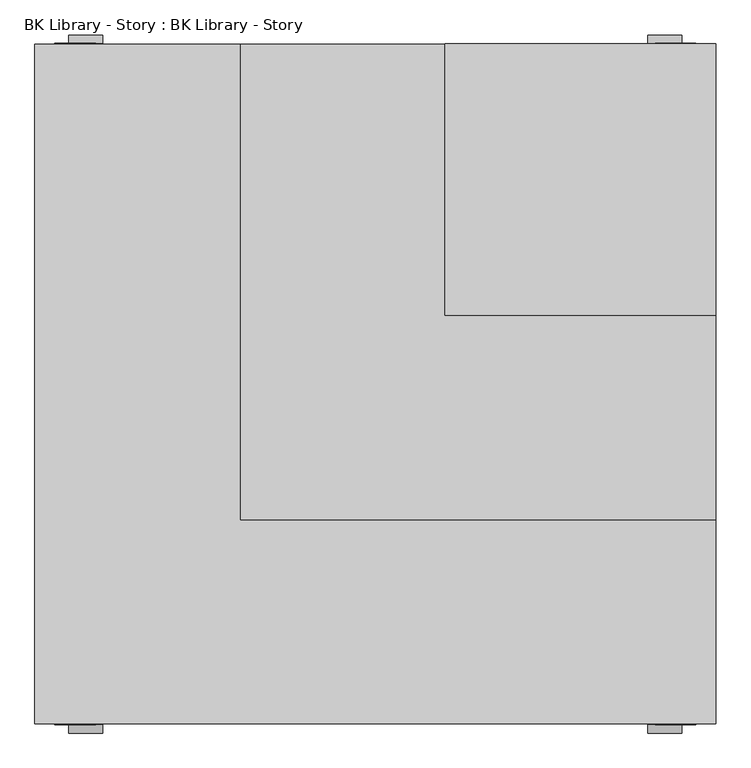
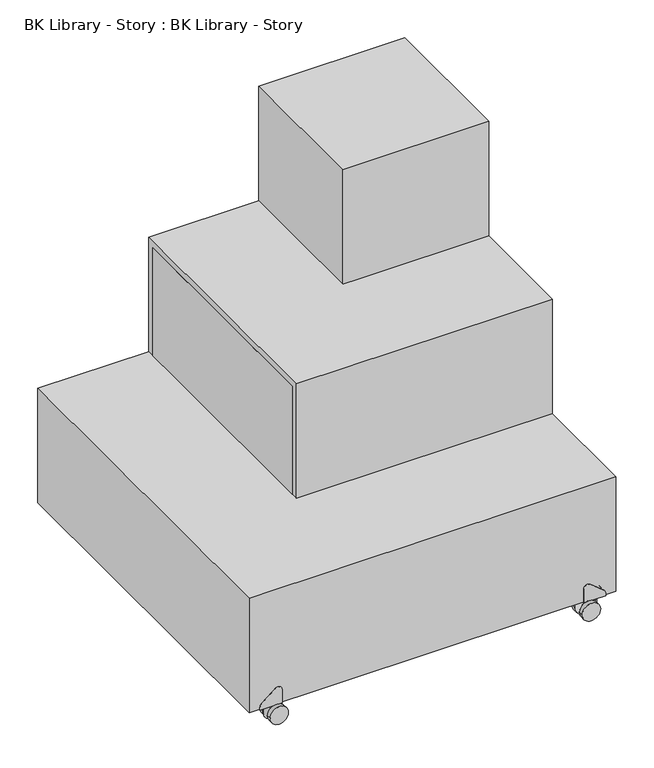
"""IFC4 building model written with IfcOpenShell, lengths in millimetres: furniture geometry, BK Library - Story : BK Library - Story."""

from ifc_helpers import new_model, si_unit, point, frame, frame_2d, origin, place, context, project, spatial, polyline, circle_curve, trimmed, segment, composite_curve, outline, extrude, faceted_brep, source, transform, mapped, element, save
from ifc_brep_helpers import plane_surface, cylinder_surface, advanced_brep


def bk_library_story_bk_library_story_77f8d59b(model_context):
    return source(origin(), model_context, "Body", "SolidModel", [
        extrude(outline(polyline([(-179.0, 479.0), (-179.0, -179.0), (-198.0, -179.0), (-198.0, 479.0), (-179.0, 479.0)])), frame((0.0, 0.0, 380.766997), z_axis=(0.0, 0.0, 1.0), x_axis=(1.0, 0.0, 0.0)), (0.0, 0.0, 1.0), 311.0),
        faceted_brep([(-481.0, -479.0, 50.242325), (-481.0, 479.0, 50.242325), (-481.0, 479.0, 361.766997), (-481.0, -479.0, 361.766997), (-500.0, -499.0, 380.766997), (-500.0, 499.0, 380.766997), (-500.0, 499.0, 50.242325), (-500.0, -499.0, 50.242325), (500.0, 499.0, 50.242325), (500.0, -499.0, 50.242325), (481.0, -479.0, 50.242325), (481.0, 479.0, 50.242325), (-198.0, 499.0, 380.766997), (-198.0, 499.0, 710.766997), (102.0, 499.0, 710.766997), (102.0, 499.0, 1040.766997), (500.0, 499.0, 1040.766997), (121.0, 499.0, 710.766997), (481.0, 499.0, 710.766997), (481.0, 499.0, 1021.766997), (121.0, 499.0, 1021.766997), (500.0, -499.0, 380.766997), (500.0, 101.0, 1040.766997), (500.0, 101.0, 710.766997), (500.0, -199.0, 710.766997), (500.0, -199.0, 380.766997), (500.0, 479.0, 380.766997), (500.0, -179.0, 380.766997), (500.0, -179.0, 691.766997), (500.0, 479.0, 691.766997), (-198.0, -199.0, 380.766997), (-198.0, -179.0, 380.766997), (141.5, -179.0, 380.766997), (141.5, 479.0, 380.766997), (-198.0, 479.0, 380.766997), (160.5, 479.0, 380.766997), (160.5, -179.0, 380.766997), (481.0, -479.0, 361.766997), (481.0, 479.0, 361.766997), (-198.0, -199.0, 710.766997), (-198.0, 479.0, 691.766997), (-198.0, -179.0, 691.766997), (102.0, 101.0, 710.766997), (121.0, 121.0, 710.766997), (481.0, 121.0, 710.766997), (160.5, -179.0, 691.766997), (141.5, -179.0, 691.766997), (160.5, 479.0, 691.766997), (141.5, 479.0, 691.766997), (121.0, 121.0, 1021.766997), (102.0, 101.0, 1040.766997), (481.0, 121.0, 1021.766997)], [[[0, 1, 2, 3]], [[4, 5, 6, 7]], [[7, 6, 8, 9], [1, 0, 10, 11]], [[6, 5, 12, 13, 14, 15, 16, 8], [17, 18, 19, 20]], [[21, 4, 7, 9]], [[9, 8, 16, 22, 23, 24, 25, 21], [26, 27, 28, 29]], [[5, 4, 21, 25, 30, 31, 32, 33, 34, 12]], [[27, 26, 35, 36]], [[0, 3, 37, 10]], [[3, 2, 38, 37]], [[2, 1, 11, 38]], [[11, 10, 37, 38]], [[39, 13, 12, 34, 40, 41, 31, 30]], [[13, 39, 24, 23, 42, 14]], [[18, 17, 43, 44]], [[28, 27, 36, 45]], [[31, 41, 46, 32]], [[29, 28, 45, 47]], [[41, 40, 48, 46]], [[26, 29, 47, 35]], [[40, 34, 33, 48]], [[33, 32, 46, 48]], [[36, 35, 47, 45]], [[17, 20, 49, 43]], [[50, 15, 14, 42]], [[22, 50, 42, 23]], [[22, 16, 15, 50]], [[43, 49, 51, 44]], [[49, 20, 19, 51]], [[19, 18, 44, 51]], [[25, 24, 39, 30]]]),
        advanced_brep(
        [(-422.428374, 499.29998, 49.8192833), (-422.428374, 477.69998, 49.8192833), (-400.4289031, 477.69998, 25.0), (-402.388922, 477.69998, 15.29643), (-402.413509, 499.29998, 15.2382567), (-400.4289031, 499.29998, 25.0), (-422.428374, 499.29998, 50.2382567), (-422.428374, 477.69998, 50.2382567), (-443.088099, 499.29998, 50.2382567), (-443.088099, 477.69998, 50.2382567), (-443.088099, 477.69998, 15.2382567), (-443.088099, 499.29998, 15.2382567)],
        [
            (0, 1),
            (1, 2, circle_curve(frame((-425.4289031, 477.69998, 25.0), z_axis=(0.0, 1.0, 0.0), x_axis=(-1.0, 0.0, 0.0)), 25.0)),
            (2, 3, circle_curve(frame((-425.4289031, 477.69998, 25.0), z_axis=(0.0, 1.0, 0.0), x_axis=(-1.0, 0.0, 0.0)), 25.0)),
            (3, 4),
            (4, 5, circle_curve(frame((-425.4289031, 499.29998, 25.0), z_axis=(0.0, -1.0, 0.0), x_axis=(-1.0, 0.0, 0.0)), 25.0)),
            (5, 0, circle_curve(frame((-425.4289031, 499.29998, 25.0), z_axis=(0.0, -1.0, 0.0), x_axis=(-1.0, 0.0, 0.0)), 25.0)),
            (0, 6),
            (6, 7),
            (7, 1),
            (8, 9, circle_curve(frame((-441.0000377, 488.49998, 50.2382567), z_axis=(0.0, 0.0, 1.0), x_axis=(0.0, -1.0, 0.0)), 11.0)),
            (9, 7),
            (6, 8),
            (10, 11, circle_curve(frame((-441.0000377, 488.49998, 15.2382567), z_axis=(0.0, 0.0, -1.0), x_axis=(0.0, -1.0, 0.0)), 11.0)),
            (11, 4),
            (3, 10),
            (11, 8),
            (9, 10),
        ],
        [
            cylinder_surface(frame((-425.4289031, 513.8020881, 25.0), z_axis=(0.0, 1.0, 0.0), x_axis=(-1.0, 0.0, 0.0)), 25.0),
            plane_surface(frame((-422.428374, 445.6805868, 53.2043501), z_axis=(1.0, 0.0, 0.0), x_axis=(0.0, 1.0, 0.0))),
            plane_surface(frame((-441.0000377, 477.49998, 50.2382567), z_axis=(0.0, 0.0, 1.0), x_axis=(1.0, 0.0, 0.0))),
            plane_surface(frame((-441.0000377, 477.49998, 15.2382567), z_axis=(0.0, 0.0, -1.0), x_axis=(-1.0, 0.0, 0.0))),
            plane_surface(frame((-400.4289031, 499.29998, 50.2382567), z_axis=(0.0, 1.0, 0.0), x_axis=(0.0, 0.0, -1.0))),
            plane_surface(frame((-443.088099, 477.69998, 50.2382567), z_axis=(0.0, -1.0, 0.0), x_axis=(0.0, 0.0, -1.0))),
            cylinder_surface(frame((-441.0000377, 488.49998, 15.2382567), z_axis=(0.0, 0.0, 1.0), x_axis=(0.0, -1.0, 0.0)), 11.0),
        ],
        [
            (0, [[1, 2, 3, 4, 5, 6]]),
            (1, [[-1, 7, 8, 9]]),
            (2, [[10, 11, -8, 12]]),
            (3, [[13, 14, -4, 15]]),
            (4, [[16, -12, -7, -6, -5, -14]]),
            (5, [[17, -15, -3, -2, -9, -11]]),
            (6, [[-10, -16, -13, -17]]),
        ],
    ),
        advanced_brep(
        [(-400.4289031, 499.29998, 25.0), (-422.428374, 499.29998, 49.8192833), (-450.4289031, 499.29998, 25.0), (-402.388922, 499.29998, 15.29643), (-400.4289031, 512.29998, 25.0), (-402.388922, 512.29998, 15.29643), (-450.4289031, 512.29998, 25.0), (-422.428374, 512.29998, 49.8192833)],
        [
            (0, 1, circle_curve(frame((-425.4289031, 499.29998, 25.0), z_axis=(0.0, -1.0, 0.0), x_axis=(-1.0, 0.0, 0.0)), 25.0)),
            (1, 2, circle_curve(frame((-425.4289031, 499.29998, 25.0), z_axis=(0.0, -1.0, 0.0), x_axis=(-1.0, 0.0, 0.0)), 25.0)),
            (2, 3, circle_curve(frame((-425.4289031, 499.29998, 25.0), z_axis=(0.0, -1.0, 0.0), x_axis=(-1.0, 0.0, 0.0)), 25.0)),
            (3, 0, circle_curve(frame((-425.4289031, 499.29998, 25.0), z_axis=(0.0, -1.0, 0.0), x_axis=(-1.0, 0.0, 0.0)), 25.0)),
            (4, 5, circle_curve(frame((-425.4289031, 512.29998, 25.0), z_axis=(0.0, 1.0, 0.0), x_axis=(-1.0, 0.0, 0.0)), 25.0)),
            (5, 6, circle_curve(frame((-425.4289031, 512.29998, 25.0), z_axis=(0.0, 1.0, 0.0), x_axis=(-1.0, 0.0, 0.0)), 25.0)),
            (6, 7, circle_curve(frame((-425.4289031, 512.29998, 25.0), z_axis=(0.0, 1.0, 0.0), x_axis=(-1.0, 0.0, 0.0)), 25.0)),
            (7, 4, circle_curve(frame((-425.4289031, 512.29998, 25.0), z_axis=(0.0, 1.0, 0.0), x_axis=(-1.0, 0.0, 0.0)), 25.0)),
            (2, 6),
            (4, 0),
        ],
        [
            plane_surface(frame((-450.4289031, 499.29998, 25.0), z_axis=(0.0, -1.0, 0.0), x_axis=(0.0, 0.0, -1.0))),
            plane_surface(frame((-450.4289031, 512.29998, 25.0), z_axis=(0.0, 1.0, 0.0), x_axis=(0.0, 0.0, 1.0))),
            cylinder_surface(frame((-425.4289031, 512.29998, 25.0), z_axis=(0.0, -1.0, 0.0), x_axis=(-1.0, 0.0, 0.0)), 25.0),
        ],
        [
            (0, [[1, 2, 3, 4]]),
            (1, [[5, 6, 7, 8]]),
            (2, [[9, -6, -5, 10, -4, -3]]),
            (2, [[-9, -2, -1, -10, -8, -7]]),
        ],
    ),
        advanced_brep(
        [(-400.4289031, 464.69998, 25.0), (-422.428374, 464.69998, 49.8192833), (-450.4289031, 464.69998, 25.0), (-402.388922, 464.69998, 15.29643), (-400.4289031, 477.69998, 25.0), (-402.388922, 477.69998, 15.29643), (-450.4289031, 477.69998, 25.0), (-422.428374, 477.69998, 49.8192833)],
        [
            (0, 1, circle_curve(frame((-425.4289031, 464.69998, 25.0), z_axis=(0.0, -1.0, 0.0), x_axis=(-1.0, 0.0, 0.0)), 25.0)),
            (1, 2, circle_curve(frame((-425.4289031, 464.69998, 25.0), z_axis=(0.0, -1.0, 0.0), x_axis=(-1.0, 0.0, 0.0)), 25.0)),
            (2, 3, circle_curve(frame((-425.4289031, 464.69998, 25.0), z_axis=(0.0, -1.0, 0.0), x_axis=(-1.0, 0.0, 0.0)), 25.0)),
            (3, 0, circle_curve(frame((-425.4289031, 464.69998, 25.0), z_axis=(0.0, -1.0, 0.0), x_axis=(-1.0, 0.0, 0.0)), 25.0)),
            (4, 5, circle_curve(frame((-425.4289031, 477.69998, 25.0), z_axis=(0.0, 1.0, 0.0), x_axis=(-1.0, 0.0, 0.0)), 25.0)),
            (5, 6, circle_curve(frame((-425.4289031, 477.69998, 25.0), z_axis=(0.0, 1.0, 0.0), x_axis=(-1.0, 0.0, 0.0)), 25.0)),
            (6, 7, circle_curve(frame((-425.4289031, 477.69998, 25.0), z_axis=(0.0, 1.0, 0.0), x_axis=(-1.0, 0.0, 0.0)), 25.0)),
            (7, 4, circle_curve(frame((-425.4289031, 477.69998, 25.0), z_axis=(0.0, 1.0, 0.0), x_axis=(-1.0, 0.0, 0.0)), 25.0)),
            (2, 6),
            (4, 0),
        ],
        [
            plane_surface(frame((-450.4289031, 464.69998, 25.0), z_axis=(0.0, -1.0, 0.0), x_axis=(0.0, 0.0, -1.0))),
            plane_surface(frame((-450.4289031, 477.69998, 25.0), z_axis=(0.0, 1.0, 0.0), x_axis=(0.0, 0.0, 1.0))),
            cylinder_surface(frame((-425.4289031, 477.69998, 25.0), z_axis=(0.0, -1.0, 0.0), x_axis=(-1.0, 0.0, 0.0)), 25.0),
        ],
        [
            (0, [[1, 2, 3, 4]]),
            (1, [[5, 6, 7, 8]]),
            (2, [[9, -6, -5, 10, -4, -3]]),
            (2, [[-9, -2, -1, -10, -8, -7]]),
        ],
    ),
        extrude(outline(composite_curve([segment(trimmed(circle_curve(frame_2d((56.6874571, -458.5001767)), 12.5), [point((66.4119088, -466.354159))], [point((56.6870182, -471.0001767))], False, "CARTESIAN"), True, "CONTINUOUS"), segment(polyline([(56.6870182, -471.0001767), (48.7669978, -470.9998987), (48.7669978, -411.0001767), (87.4669978, -411.0001767)]), True, "CONTINUOUS"), segment(trimmed(circle_curve(frame_2d((87.4669978, -422.3001767)), 11.3), [point((87.4669978, -411.0001767))], [point((96.2579022, -429.4001767))], False, "CARTESIAN"), True, "CONTINUOUS"), segment(polyline([(96.2579022, -429.4001767), (66.4119088, -466.354159)]), True, "CONTINUOUS")], self_intersect=False)), frame((0.0, 476.74998, 0.0), z_axis=(0.0, 1.0, 0.0), x_axis=(0.0, 0.0, 1.0)), (0.0, 0.0, 1.0), 23.5),
        advanced_brep(
        [(422.428374, 477.69998, 49.8192833), (422.428374, 499.29998, 49.8192833), (400.4289031, 499.29998, 25.0), (402.388922, 499.29998, 15.29643), (402.413509, 477.69998, 15.2382567), (400.4289031, 477.69998, 25.0), (422.428374, 477.69998, 50.2382567), (422.428374, 499.29998, 50.2382567), (443.088099, 477.69998, 50.2382567), (443.088099, 499.29998, 50.2382567), (443.088099, 499.29998, 15.2382567), (443.088099, 477.69998, 15.2382567)],
        [
            (0, 1),
            (1, 2, circle_curve(frame((425.4289031, 499.29998, 25.0), z_axis=(0.0, -1.0, 0.0), x_axis=(1.0, 0.0, 0.0)), 25.0)),
            (2, 3, circle_curve(frame((425.4289031, 499.29998, 25.0), z_axis=(0.0, -1.0, 0.0), x_axis=(1.0, 0.0, 0.0)), 25.0)),
            (3, 4),
            (4, 5, circle_curve(frame((425.4289031, 477.69998, 25.0), z_axis=(0.0, 1.0, 0.0), x_axis=(1.0, 0.0, 0.0)), 25.0)),
            (5, 0, circle_curve(frame((425.4289031, 477.69998, 25.0), z_axis=(0.0, 1.0, 0.0), x_axis=(1.0, 0.0, 0.0)), 25.0)),
            (0, 6),
            (6, 7),
            (7, 1),
            (8, 9, circle_curve(frame((441.0000377, 488.49998, 50.2382567), z_axis=(0.0, 0.0, 1.0), x_axis=(0.0, -1.0, 0.0)), 11.0)),
            (9, 7),
            (6, 8),
            (10, 11, circle_curve(frame((441.0000377, 488.49998, 15.2382567), z_axis=(0.0, 0.0, -1.0), x_axis=(0.0, -1.0, 0.0)), 11.0)),
            (11, 4),
            (3, 10),
            (9, 10),
            (11, 8),
        ],
        [
            cylinder_surface(frame((425.4289031, 513.8020881, 25.0), z_axis=(0.0, 1.0, 0.0), x_axis=(1.0, 0.0, 0.0)), 25.0),
            plane_surface(frame((422.428374, 445.6805868, 49.8192833), z_axis=(-1.0, 0.0, 0.0), x_axis=(0.0, 1.0, 0.0))),
            plane_surface(frame((400.4289031, 499.29998, 50.2382567), z_axis=(0.0, 0.0, 1.0), x_axis=(-1.0, 0.0, 0.0))),
            plane_surface(frame((400.4289031, 499.29998, 15.2382567), z_axis=(0.0, 0.0, -1.0), x_axis=(1.0, 0.0, 0.0))),
            plane_surface(frame((443.088099, 499.29998, 50.2382567), z_axis=(0.0, 1.0, 0.0), x_axis=(0.0, 0.0, -1.0))),
            plane_surface(frame((400.4289031, 477.69998, 50.2382567), z_axis=(0.0, -1.0, 0.0), x_axis=(0.0, 0.0, -1.0))),
            cylinder_surface(frame((441.0000377, 488.49998, 15.2382567), z_axis=(0.0, 0.0, 1.0), x_axis=(0.0, -1.0, 0.0)), 11.0),
        ],
        [
            (0, [[1, 2, 3, 4, 5, 6]]),
            (1, [[-1, 7, 8, 9]]),
            (2, [[10, 11, -8, 12]]),
            (3, [[13, 14, -4, 15]]),
            (4, [[16, -15, -3, -2, -9, -11]]),
            (5, [[17, -12, -7, -6, -5, -14]]),
            (6, [[-10, -17, -13, -16]]),
        ],
    ),
        advanced_brep(
        [(400.4289031, 499.29998, 25.0), (402.388922, 499.29998, 15.29643), (450.4289031, 499.29998, 25.0), (422.428374, 499.29998, 49.8192833), (400.4289031, 512.29998, 25.0), (422.428374, 512.29998, 49.8192833), (450.4289031, 512.29998, 25.0), (402.388922, 512.29998, 15.29643)],
        [
            (0, 1, circle_curve(frame((425.4289031, 499.29998, 25.0), z_axis=(0.0, -1.0, 0.0), x_axis=(1.0, 0.0, 0.0)), 25.0)),
            (1, 2, circle_curve(frame((425.4289031, 499.29998, 25.0), z_axis=(0.0, -1.0, 0.0), x_axis=(1.0, 0.0, 0.0)), 25.0)),
            (2, 3, circle_curve(frame((425.4289031, 499.29998, 25.0), z_axis=(0.0, -1.0, 0.0), x_axis=(1.0, 0.0, 0.0)), 25.0)),
            (3, 0, circle_curve(frame((425.4289031, 499.29998, 25.0), z_axis=(0.0, -1.0, 0.0), x_axis=(1.0, 0.0, 0.0)), 25.0)),
            (4, 5, circle_curve(frame((425.4289031, 512.29998, 25.0), z_axis=(0.0, 1.0, 0.0), x_axis=(1.0, 0.0, 0.0)), 25.0)),
            (5, 6, circle_curve(frame((425.4289031, 512.29998, 25.0), z_axis=(0.0, 1.0, 0.0), x_axis=(1.0, 0.0, 0.0)), 25.0)),
            (6, 7, circle_curve(frame((425.4289031, 512.29998, 25.0), z_axis=(0.0, 1.0, 0.0), x_axis=(1.0, 0.0, 0.0)), 25.0)),
            (7, 4, circle_curve(frame((425.4289031, 512.29998, 25.0), z_axis=(0.0, 1.0, 0.0), x_axis=(1.0, 0.0, 0.0)), 25.0)),
            (0, 4),
            (6, 2),
        ],
        [
            plane_surface(frame((450.4289031, 499.29998, 25.0), z_axis=(0.0, -1.0, 0.0), x_axis=(0.0, 0.0, 1.0))),
            plane_surface(frame((450.4289031, 512.29998, 25.0), z_axis=(0.0, 1.0, 0.0), x_axis=(0.0, 0.0, -1.0))),
            cylinder_surface(frame((425.4289031, 512.29998, 25.0), z_axis=(0.0, -1.0, 0.0), x_axis=(1.0, 0.0, 0.0)), 25.0),
        ],
        [
            (0, [[1, 2, 3, 4]]),
            (1, [[5, 6, 7, 8]]),
            (2, [[9, -8, -7, 10, -2, -1]]),
            (2, [[-9, -4, -3, -10, -6, -5]]),
        ],
    ),
        advanced_brep(
        [(400.4289031, 464.69998, 25.0), (402.388922, 464.69998, 15.29643), (450.4289031, 464.69998, 25.0), (422.428374, 464.69998, 49.8192833), (400.4289031, 477.69998, 25.0), (422.428374, 477.69998, 49.8192833), (450.4289031, 477.69998, 25.0), (402.388922, 477.69998, 15.29643)],
        [
            (0, 1, circle_curve(frame((425.4289031, 464.69998, 25.0), z_axis=(0.0, -1.0, 0.0), x_axis=(1.0, 0.0, 0.0)), 25.0)),
            (1, 2, circle_curve(frame((425.4289031, 464.69998, 25.0), z_axis=(0.0, -1.0, 0.0), x_axis=(1.0, 0.0, 0.0)), 25.0)),
            (2, 3, circle_curve(frame((425.4289031, 464.69998, 25.0), z_axis=(0.0, -1.0, 0.0), x_axis=(1.0, 0.0, 0.0)), 25.0)),
            (3, 0, circle_curve(frame((425.4289031, 464.69998, 25.0), z_axis=(0.0, -1.0, 0.0), x_axis=(1.0, 0.0, 0.0)), 25.0)),
            (4, 5, circle_curve(frame((425.4289031, 477.69998, 25.0), z_axis=(0.0, 1.0, 0.0), x_axis=(1.0, 0.0, 0.0)), 25.0)),
            (5, 6, circle_curve(frame((425.4289031, 477.69998, 25.0), z_axis=(0.0, 1.0, 0.0), x_axis=(1.0, 0.0, 0.0)), 25.0)),
            (6, 7, circle_curve(frame((425.4289031, 477.69998, 25.0), z_axis=(0.0, 1.0, 0.0), x_axis=(1.0, 0.0, 0.0)), 25.0)),
            (7, 4, circle_curve(frame((425.4289031, 477.69998, 25.0), z_axis=(0.0, 1.0, 0.0), x_axis=(1.0, 0.0, 0.0)), 25.0)),
            (0, 4),
            (6, 2),
        ],
        [
            plane_surface(frame((450.4289031, 464.69998, 25.0), z_axis=(0.0, -1.0, 0.0), x_axis=(0.0, 0.0, 1.0))),
            plane_surface(frame((450.4289031, 477.69998, 25.0), z_axis=(0.0, 1.0, 0.0), x_axis=(0.0, 0.0, -1.0))),
            cylinder_surface(frame((425.4289031, 477.69998, 25.0), z_axis=(0.0, -1.0, 0.0), x_axis=(1.0, 0.0, 0.0)), 25.0),
        ],
        [
            (0, [[1, 2, 3, 4]]),
            (1, [[5, 6, 7, 8]]),
            (2, [[9, -8, -7, 10, -2, -1]]),
            (2, [[-9, -4, -3, -10, -6, -5]]),
        ],
    ),
        extrude(outline(composite_curve([segment(polyline([(66.4119088, 466.354159), (96.2579022, 429.4001767)]), True, "CONTINUOUS"), segment(trimmed(circle_curve(frame_2d((87.4669978, 422.3001767)), 11.3), [point((96.2579022, 429.4001767))], [point((87.4669978, 411.0001767))], False, "CARTESIAN"), True, "CONTINUOUS"), segment(polyline([(87.4669978, 411.0001767), (48.7669978, 411.0001767), (48.7669978, 470.9998987), (56.6870182, 471.0001767)]), True, "CONTINUOUS"), segment(trimmed(circle_curve(frame_2d((56.6874571, 458.5001767)), 12.5), [point((56.6870182, 471.0001767))], [point((66.4119088, 466.354159))], False, "CARTESIAN"), True, "CONTINUOUS")], self_intersect=False)), frame((0.0, 476.74998, 0.0), z_axis=(0.0, 1.0, 0.0), x_axis=(0.0, 0.0, 1.0)), (0.0, 0.0, 1.0), 23.5),
        advanced_brep(
        [(422.428374, -499.29998, 49.8192833), (422.428374, -477.69998, 49.8192833), (400.4289031, -477.69998, 25.0), (402.388922, -477.69998, 15.29643), (402.413509, -499.29998, 15.2382567), (400.4289031, -499.29998, 25.0), (422.428374, -499.29998, 50.2382567), (422.428374, -477.69998, 50.2382567), (443.088099, -499.29998, 50.2382567), (443.088099, -477.69998, 50.2382567), (443.088099, -477.69998, 15.2382567), (443.088099, -499.29998, 15.2382567)],
        [
            (0, 1),
            (1, 2, circle_curve(frame((425.4289031, -477.69998, 25.0), z_axis=(0.0, -1.0, 0.0), x_axis=(1.0, 0.0, 0.0)), 25.0)),
            (2, 3, circle_curve(frame((425.4289031, -477.69998, 25.0), z_axis=(0.0, -1.0, 0.0), x_axis=(1.0, 0.0, 0.0)), 25.0)),
            (3, 4),
            (4, 5, circle_curve(frame((425.4289031, -499.29998, 25.0), z_axis=(0.0, 1.0, 0.0), x_axis=(1.0, 0.0, 0.0)), 25.0)),
            (5, 0, circle_curve(frame((425.4289031, -499.29998, 25.0), z_axis=(0.0, 1.0, 0.0), x_axis=(1.0, 0.0, 0.0)), 25.0)),
            (0, 6),
            (6, 7),
            (7, 1),
            (8, 9, circle_curve(frame((441.0000377, -488.49998, 50.2382567), z_axis=(0.0, 0.0, 1.0), x_axis=(0.0, 1.0, 0.0)), 11.0)),
            (9, 7),
            (6, 8),
            (10, 11, circle_curve(frame((441.0000377, -488.49998, 15.2382567), z_axis=(0.0, 0.0, -1.0), x_axis=(0.0, 1.0, 0.0)), 11.0)),
            (11, 4),
            (3, 10),
            (11, 8),
            (9, 10),
        ],
        [
            cylinder_surface(frame((425.4289031, -513.8020881, 25.0), z_axis=(0.0, -1.0, 0.0), x_axis=(1.0, 0.0, 0.0)), 25.0),
            plane_surface(frame((422.428374, -445.6805868, 53.2043501), z_axis=(-1.0, 0.0, 0.0), x_axis=(0.0, -1.0, 0.0))),
            plane_surface(frame((441.0000377, -477.49998, 50.2382567), z_axis=(0.0, 0.0, 1.0), x_axis=(-1.0, 0.0, 0.0))),
            plane_surface(frame((441.0000377, -477.49998, 15.2382567), z_axis=(0.0, 0.0, -1.0), x_axis=(1.0, 0.0, 0.0))),
            plane_surface(frame((400.4289031, -499.29998, 50.2382567), z_axis=(0.0, -1.0, 0.0), x_axis=(0.0, 0.0, -1.0))),
            plane_surface(frame((443.088099, -477.69998, 50.2382567), z_axis=(0.0, 1.0, 0.0), x_axis=(0.0, 0.0, -1.0))),
            cylinder_surface(frame((441.0000377, -488.49998, 15.2382567), z_axis=(0.0, 0.0, 1.0), x_axis=(0.0, 1.0, 0.0)), 11.0),
        ],
        [
            (0, [[1, 2, 3, 4, 5, 6]]),
            (1, [[-1, 7, 8, 9]]),
            (2, [[10, 11, -8, 12]]),
            (3, [[13, 14, -4, 15]]),
            (4, [[16, -12, -7, -6, -5, -14]]),
            (5, [[17, -15, -3, -2, -9, -11]]),
            (6, [[-10, -16, -13, -17]]),
        ],
    ),
        advanced_brep(
        [(400.4289031, -499.29998, 25.0), (422.428374, -499.29998, 49.8192833), (450.4289031, -499.29998, 25.0), (402.388922, -499.29998, 15.29643), (400.4289031, -512.29998, 25.0), (402.388922, -512.29998, 15.29643), (450.4289031, -512.29998, 25.0), (422.428374, -512.29998, 49.8192833)],
        [
            (0, 1, circle_curve(frame((425.4289031, -499.29998, 25.0), z_axis=(0.0, 1.0, 0.0), x_axis=(1.0, 0.0, 0.0)), 25.0)),
            (1, 2, circle_curve(frame((425.4289031, -499.29998, 25.0), z_axis=(0.0, 1.0, 0.0), x_axis=(1.0, 0.0, 0.0)), 25.0)),
            (2, 3, circle_curve(frame((425.4289031, -499.29998, 25.0), z_axis=(0.0, 1.0, 0.0), x_axis=(1.0, 0.0, 0.0)), 25.0)),
            (3, 0, circle_curve(frame((425.4289031, -499.29998, 25.0), z_axis=(0.0, 1.0, 0.0), x_axis=(1.0, 0.0, 0.0)), 25.0)),
            (4, 5, circle_curve(frame((425.4289031, -512.29998, 25.0), z_axis=(0.0, -1.0, 0.0), x_axis=(1.0, 0.0, 0.0)), 25.0)),
            (5, 6, circle_curve(frame((425.4289031, -512.29998, 25.0), z_axis=(0.0, -1.0, 0.0), x_axis=(1.0, 0.0, 0.0)), 25.0)),
            (6, 7, circle_curve(frame((425.4289031, -512.29998, 25.0), z_axis=(0.0, -1.0, 0.0), x_axis=(1.0, 0.0, 0.0)), 25.0)),
            (7, 4, circle_curve(frame((425.4289031, -512.29998, 25.0), z_axis=(0.0, -1.0, 0.0), x_axis=(1.0, 0.0, 0.0)), 25.0)),
            (2, 6),
            (4, 0),
        ],
        [
            plane_surface(frame((450.4289031, -499.29998, 25.0), z_axis=(0.0, 1.0, 0.0), x_axis=(0.0, 0.0, -1.0))),
            plane_surface(frame((450.4289031, -512.29998, 25.0), z_axis=(0.0, -1.0, 0.0), x_axis=(0.0, 0.0, 1.0))),
            cylinder_surface(frame((425.4289031, -512.29998, 25.0), z_axis=(0.0, 1.0, 0.0), x_axis=(1.0, 0.0, 0.0)), 25.0),
        ],
        [
            (0, [[1, 2, 3, 4]]),
            (1, [[5, 6, 7, 8]]),
            (2, [[9, -6, -5, 10, -4, -3]]),
            (2, [[-9, -2, -1, -10, -8, -7]]),
        ],
    ),
        advanced_brep(
        [(400.4289031, -464.69998, 25.0), (422.428374, -464.69998, 49.8192833), (450.4289031, -464.69998, 25.0), (402.388922, -464.69998, 15.29643), (400.4289031, -477.69998, 25.0), (402.388922, -477.69998, 15.29643), (450.4289031, -477.69998, 25.0), (422.428374, -477.69998, 49.8192833)],
        [
            (0, 1, circle_curve(frame((425.4289031, -464.69998, 25.0), z_axis=(0.0, 1.0, 0.0), x_axis=(1.0, 0.0, 0.0)), 25.0)),
            (1, 2, circle_curve(frame((425.4289031, -464.69998, 25.0), z_axis=(0.0, 1.0, 0.0), x_axis=(1.0, 0.0, 0.0)), 25.0)),
            (2, 3, circle_curve(frame((425.4289031, -464.69998, 25.0), z_axis=(0.0, 1.0, 0.0), x_axis=(1.0, 0.0, 0.0)), 25.0)),
            (3, 0, circle_curve(frame((425.4289031, -464.69998, 25.0), z_axis=(0.0, 1.0, 0.0), x_axis=(1.0, 0.0, 0.0)), 25.0)),
            (4, 5, circle_curve(frame((425.4289031, -477.69998, 25.0), z_axis=(0.0, -1.0, 0.0), x_axis=(1.0, 0.0, 0.0)), 25.0)),
            (5, 6, circle_curve(frame((425.4289031, -477.69998, 25.0), z_axis=(0.0, -1.0, 0.0), x_axis=(1.0, 0.0, 0.0)), 25.0)),
            (6, 7, circle_curve(frame((425.4289031, -477.69998, 25.0), z_axis=(0.0, -1.0, 0.0), x_axis=(1.0, 0.0, 0.0)), 25.0)),
            (7, 4, circle_curve(frame((425.4289031, -477.69998, 25.0), z_axis=(0.0, -1.0, 0.0), x_axis=(1.0, 0.0, 0.0)), 25.0)),
            (2, 6),
            (4, 0),
        ],
        [
            plane_surface(frame((450.4289031, -464.69998, 25.0), z_axis=(0.0, 1.0, 0.0), x_axis=(0.0, 0.0, -1.0))),
            plane_surface(frame((450.4289031, -477.69998, 25.0), z_axis=(0.0, -1.0, 0.0), x_axis=(0.0, 0.0, 1.0))),
            cylinder_surface(frame((425.4289031, -477.69998, 25.0), z_axis=(0.0, 1.0, 0.0), x_axis=(1.0, 0.0, 0.0)), 25.0),
        ],
        [
            (0, [[1, 2, 3, 4]]),
            (1, [[5, 6, 7, 8]]),
            (2, [[9, -6, -5, 10, -4, -3]]),
            (2, [[-9, -2, -1, -10, -8, -7]]),
        ],
    ),
        extrude(outline(composite_curve([segment(polyline([(66.4119088, 466.354159), (96.2579022, 429.4001767)]), True, "CONTINUOUS"), segment(trimmed(circle_curve(frame_2d((87.4669978, 422.3001767)), 11.3), [point((96.2579022, 429.4001767))], [point((87.4669978, 411.0001767))], False, "CARTESIAN"), True, "CONTINUOUS"), segment(polyline([(87.4669978, 411.0001767), (48.7669978, 411.0001767), (48.7669978, 470.9998987), (56.6870182, 471.0001767)]), True, "CONTINUOUS"), segment(trimmed(circle_curve(frame_2d((56.6874571, 458.5001767)), 12.5), [point((56.6870182, 471.0001767))], [point((66.4119088, 466.354159))], False, "CARTESIAN"), True, "CONTINUOUS")], self_intersect=False)), frame((0.0, -500.24998, 0.0), z_axis=(0.0, 1.0, 0.0), x_axis=(0.0, 0.0, 1.0)), (0.0, 0.0, 1.0), 23.5),
        extrude(outline(composite_curve([segment(trimmed(circle_curve(frame_2d((56.6874571, -458.5001767)), 12.5), [point((66.4119088, -466.354159))], [point((56.6870182, -471.0001767))], False, "CARTESIAN"), True, "CONTINUOUS"), segment(polyline([(56.6870182, -471.0001767), (48.7669978, -470.9998987), (48.7669978, -411.0001767), (87.4669978, -411.0001767)]), True, "CONTINUOUS"), segment(trimmed(circle_curve(frame_2d((87.4669978, -422.3001767)), 11.3), [point((87.4669978, -411.0001767))], [point((96.2579022, -429.4001767))], False, "CARTESIAN"), True, "CONTINUOUS"), segment(polyline([(96.2579022, -429.4001767), (66.4119088, -466.354159)]), True, "CONTINUOUS")], self_intersect=False)), frame((0.0, -500.24998, 0.0), z_axis=(0.0, 1.0, 0.0), x_axis=(0.0, 0.0, 1.0)), (0.0, 0.0, 1.0), 23.5),
        advanced_brep(
        [(-422.428374, -477.69998, 49.8192833), (-422.428374, -499.29998, 49.8192833), (-400.4289031, -499.29998, 25.0), (-402.388922, -499.29998, 15.29643), (-402.413509, -477.69998, 15.2382567), (-400.4289031, -477.69998, 25.0), (-422.428374, -477.69998, 50.2382567), (-422.428374, -499.29998, 50.2382567), (-443.088099, -477.69998, 50.2382567), (-443.088099, -499.29998, 50.2382567), (-443.088099, -499.29998, 15.2382567), (-443.088099, -477.69998, 15.2382567)],
        [
            (0, 1),
            (1, 2, circle_curve(frame((-425.4289031, -499.29998, 25.0), z_axis=(0.0, 1.0, 0.0), x_axis=(-1.0, 0.0, 0.0)), 25.0)),
            (2, 3, circle_curve(frame((-425.4289031, -499.29998, 25.0), z_axis=(0.0, 1.0, 0.0), x_axis=(-1.0, 0.0, 0.0)), 25.0)),
            (3, 4),
            (4, 5, circle_curve(frame((-425.4289031, -477.69998, 25.0), z_axis=(0.0, -1.0, 0.0), x_axis=(-1.0, 0.0, 0.0)), 25.0)),
            (5, 0, circle_curve(frame((-425.4289031, -477.69998, 25.0), z_axis=(0.0, -1.0, 0.0), x_axis=(-1.0, 0.0, 0.0)), 25.0)),
            (0, 6),
            (6, 7),
            (7, 1),
            (8, 9, circle_curve(frame((-441.0000377, -488.49998, 50.2382567), z_axis=(0.0, 0.0, 1.0), x_axis=(0.0, 1.0, 0.0)), 11.0)),
            (9, 7),
            (6, 8),
            (10, 11, circle_curve(frame((-441.0000377, -488.49998, 15.2382567), z_axis=(0.0, 0.0, -1.0), x_axis=(0.0, 1.0, 0.0)), 11.0)),
            (11, 4),
            (3, 10),
            (9, 10),
            (11, 8),
        ],
        [
            cylinder_surface(frame((-425.4289031, -513.8020881, 25.0), z_axis=(0.0, -1.0, 0.0), x_axis=(-1.0, 0.0, 0.0)), 25.0),
            plane_surface(frame((-422.428374, -445.6805868, 49.8192833), z_axis=(1.0, 0.0, 0.0), x_axis=(0.0, -1.0, 0.0))),
            plane_surface(frame((-400.4289031, -499.29998, 50.2382567), z_axis=(0.0, 0.0, 1.0), x_axis=(1.0, 0.0, 0.0))),
            plane_surface(frame((-400.4289031, -499.29998, 15.2382567), z_axis=(0.0, 0.0, -1.0), x_axis=(-1.0, 0.0, 0.0))),
            plane_surface(frame((-443.088099, -499.29998, 50.2382567), z_axis=(0.0, -1.0, 0.0), x_axis=(0.0, 0.0, -1.0))),
            plane_surface(frame((-400.4289031, -477.69998, 50.2382567), z_axis=(0.0, 1.0, 0.0), x_axis=(0.0, 0.0, -1.0))),
            cylinder_surface(frame((-441.0000377, -488.49998, 15.2382567), z_axis=(0.0, 0.0, 1.0), x_axis=(0.0, 1.0, 0.0)), 11.0),
        ],
        [
            (0, [[1, 2, 3, 4, 5, 6]]),
            (1, [[-1, 7, 8, 9]]),
            (2, [[10, 11, -8, 12]]),
            (3, [[13, 14, -4, 15]]),
            (4, [[16, -15, -3, -2, -9, -11]]),
            (5, [[17, -12, -7, -6, -5, -14]]),
            (6, [[-10, -17, -13, -16]]),
        ],
    ),
        advanced_brep(
        [(-400.4289031, -499.29998, 25.0), (-402.388922, -499.29998, 15.29643), (-450.4289031, -499.29998, 25.0), (-422.428374, -499.29998, 49.8192833), (-400.4289031, -512.29998, 25.0), (-422.428374, -512.29998, 49.8192833), (-450.4289031, -512.29998, 25.0), (-402.388922, -512.29998, 15.29643)],
        [
            (0, 1, circle_curve(frame((-425.4289031, -499.29998, 25.0), z_axis=(0.0, 1.0, 0.0), x_axis=(-1.0, 0.0, 0.0)), 25.0)),
            (1, 2, circle_curve(frame((-425.4289031, -499.29998, 25.0), z_axis=(0.0, 1.0, 0.0), x_axis=(-1.0, 0.0, 0.0)), 25.0)),
            (2, 3, circle_curve(frame((-425.4289031, -499.29998, 25.0), z_axis=(0.0, 1.0, 0.0), x_axis=(-1.0, 0.0, 0.0)), 25.0)),
            (3, 0, circle_curve(frame((-425.4289031, -499.29998, 25.0), z_axis=(0.0, 1.0, 0.0), x_axis=(-1.0, 0.0, 0.0)), 25.0)),
            (4, 5, circle_curve(frame((-425.4289031, -512.29998, 25.0), z_axis=(0.0, -1.0, 0.0), x_axis=(-1.0, 0.0, 0.0)), 25.0)),
            (5, 6, circle_curve(frame((-425.4289031, -512.29998, 25.0), z_axis=(0.0, -1.0, 0.0), x_axis=(-1.0, 0.0, 0.0)), 25.0)),
            (6, 7, circle_curve(frame((-425.4289031, -512.29998, 25.0), z_axis=(0.0, -1.0, 0.0), x_axis=(-1.0, 0.0, 0.0)), 25.0)),
            (7, 4, circle_curve(frame((-425.4289031, -512.29998, 25.0), z_axis=(0.0, -1.0, 0.0), x_axis=(-1.0, 0.0, 0.0)), 25.0)),
            (0, 4),
            (6, 2),
        ],
        [
            plane_surface(frame((-450.4289031, -499.29998, 25.0), z_axis=(0.0, 1.0, 0.0), x_axis=(0.0, 0.0, 1.0))),
            plane_surface(frame((-450.4289031, -512.29998, 25.0), z_axis=(0.0, -1.0, 0.0), x_axis=(0.0, 0.0, -1.0))),
            cylinder_surface(frame((-425.4289031, -512.29998, 25.0), z_axis=(0.0, 1.0, 0.0), x_axis=(-1.0, 0.0, 0.0)), 25.0),
        ],
        [
            (0, [[1, 2, 3, 4]]),
            (1, [[5, 6, 7, 8]]),
            (2, [[9, -8, -7, 10, -2, -1]]),
            (2, [[-9, -4, -3, -10, -6, -5]]),
        ],
    ),
        advanced_brep(
        [(-400.4289031, -464.69998, 25.0), (-402.388922, -464.69998, 15.29643), (-450.4289031, -464.69998, 25.0), (-422.428374, -464.69998, 49.8192833), (-400.4289031, -477.69998, 25.0), (-422.428374, -477.69998, 49.8192833), (-450.4289031, -477.69998, 25.0), (-402.388922, -477.69998, 15.29643)],
        [
            (0, 1, circle_curve(frame((-425.4289031, -464.69998, 25.0), z_axis=(0.0, 1.0, 0.0), x_axis=(-1.0, 0.0, 0.0)), 25.0)),
            (1, 2, circle_curve(frame((-425.4289031, -464.69998, 25.0), z_axis=(0.0, 1.0, 0.0), x_axis=(-1.0, 0.0, 0.0)), 25.0)),
            (2, 3, circle_curve(frame((-425.4289031, -464.69998, 25.0), z_axis=(0.0, 1.0, 0.0), x_axis=(-1.0, 0.0, 0.0)), 25.0)),
            (3, 0, circle_curve(frame((-425.4289031, -464.69998, 25.0), z_axis=(0.0, 1.0, 0.0), x_axis=(-1.0, 0.0, 0.0)), 25.0)),
            (4, 5, circle_curve(frame((-425.4289031, -477.69998, 25.0), z_axis=(0.0, -1.0, 0.0), x_axis=(-1.0, 0.0, 0.0)), 25.0)),
            (5, 6, circle_curve(frame((-425.4289031, -477.69998, 25.0), z_axis=(0.0, -1.0, 0.0), x_axis=(-1.0, 0.0, 0.0)), 25.0)),
            (6, 7, circle_curve(frame((-425.4289031, -477.69998, 25.0), z_axis=(0.0, -1.0, 0.0), x_axis=(-1.0, 0.0, 0.0)), 25.0)),
            (7, 4, circle_curve(frame((-425.4289031, -477.69998, 25.0), z_axis=(0.0, -1.0, 0.0), x_axis=(-1.0, 0.0, 0.0)), 25.0)),
            (0, 4),
            (6, 2),
        ],
        [
            plane_surface(frame((-450.4289031, -464.69998, 25.0), z_axis=(0.0, 1.0, 0.0), x_axis=(0.0, 0.0, 1.0))),
            plane_surface(frame((-450.4289031, -477.69998, 25.0), z_axis=(0.0, -1.0, 0.0), x_axis=(0.0, 0.0, -1.0))),
            cylinder_surface(frame((-425.4289031, -477.69998, 25.0), z_axis=(0.0, 1.0, 0.0), x_axis=(-1.0, 0.0, 0.0)), 25.0),
        ],
        [
            (0, [[1, 2, 3, 4]]),
            (1, [[5, 6, 7, 8]]),
            (2, [[9, -8, -7, 10, -2, -1]]),
            (2, [[-9, -4, -3, -10, -6, -5]]),
        ],
    ),
    ])


if __name__ == "__main__":
    model = new_model("IFC4")
    model_context = context("Model", 3, world=origin())
    ifc_project = project(units=[si_unit("LENGTHUNIT", "METRE", prefix="MILLI")], contexts=[model_context])
    site = spatial("IfcSite", under=ifc_project)
    building = spatial("IfcBuilding", under=site)
    placement = place(None, origin())
    bk_library_story_bk_library_story_shape = bk_library_story_bk_library_story_77f8d59b(model_context)
    element("IfcFurniture", 1, ObjectType="BK Library - Story : BK Library - Story", at=placement, inside=building, context=model_context, shape_type="MappedRepresentation", body=[
        mapped(bk_library_story_bk_library_story_shape, transform((0.0, 0.0, 0.0), x_axis=(1.0, 0.0, 0.0), y_axis=(0.0, 1.0, 0.0), z_axis=(0.0, 0.0, 1.0))),
    ])
    save(model, "model.ifc")
